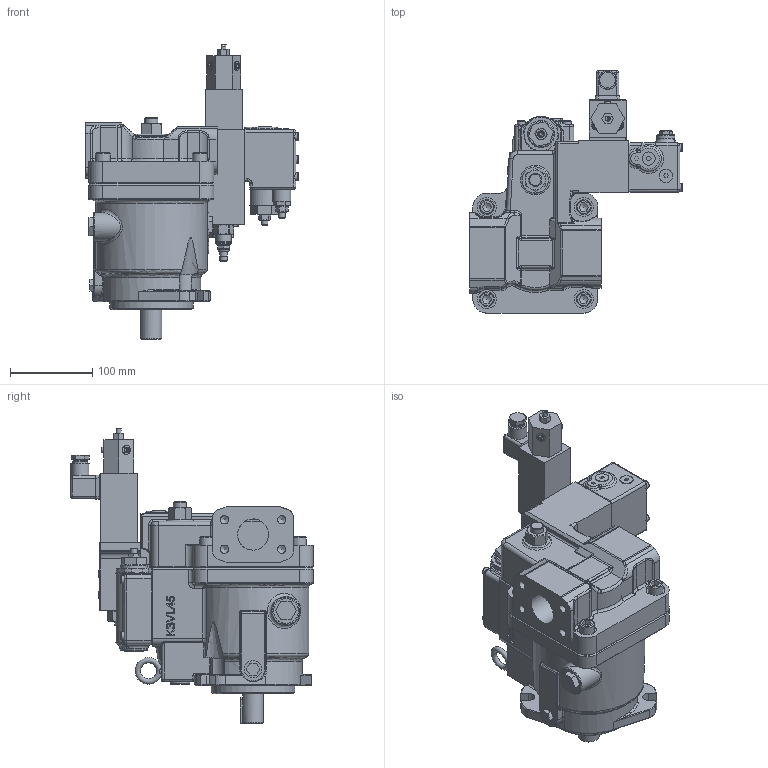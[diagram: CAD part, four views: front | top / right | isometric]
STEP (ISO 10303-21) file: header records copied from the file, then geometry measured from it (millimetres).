
FILE_DESCRIPTION((''),'2;1');
FILE_NAME('I:\3D Step files\Approved for WEB\K3V\K3VL45B 10RKM PV 1-L.stp','2013-03-05T09:02:31',('MNORMAN'),(''),'Autodesk Inventor 2013','Autodesk Inventor 2013','');
FILE_SCHEMA(('AUTOMOTIVE_DESIGN { 1 0 10303 214 1 1 1 1 }'));
Length unit declared in the file: millimetre
Products named in the file (1): Part4
Bounding box: 259 x 294.7 x 359 mm (x, y, z)
Volume: 5920019.8 mm3; surface area: 402700.9 mm2
Topology: 28 solids, 28 shells, 1727 faces, 4096 edges, 2505 vertices
Faces by surface type: plane 823, cylinder 403, cone 200, bspline 185, torus 90, sphere 26
Full cylindrical faces by diameter (mm): 1.6 x4, 2 x1, 4.089 x1, 4.134 x4, 4.3 x2, 4.917 x4, 6 x9, 6.5 x4, 6.6 x8, 6.647 x1, 6.858 x1, 7.671 x1, 8 x7, 8.376 x5, 8.5 x4, 9.347 x2, 9.4 x4, 9.881 x1, 10 x8, 10.106 x8, 11 x11, 12 x5, 12.2 x1, 12.611 x2, 12.725 x1, 13.487 x1, 13.767 x2, 13.835 x1, 15.5 x4, 16 x4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
Entity records: 54958 total; most frequent: CARTESIAN_POINT 16379, ORIENTED_EDGE 7428, DIRECTION 7382, EDGE_CURVE 3714, AXIS2_PLACEMENT_3D 2795, VERTEX_POINT 2411, EDGE_LOOP 2123, VECTOR 1792
